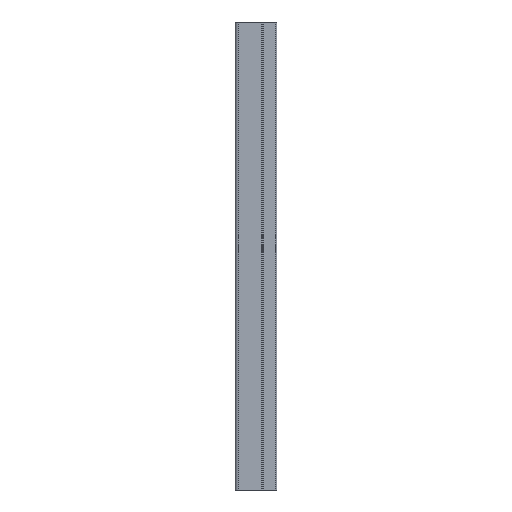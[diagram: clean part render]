
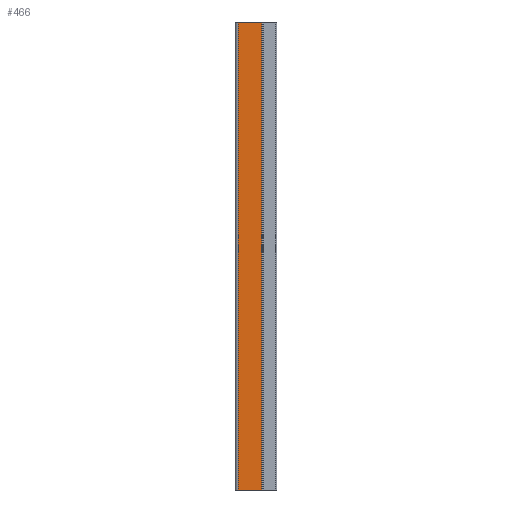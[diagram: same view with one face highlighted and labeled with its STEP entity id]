
A CAD part, left-side view. The second image highlights one B-rep face of the part: STEP entity #466.
In plain terms, the highlighted planar face has unit normal (-1, 0, 0).
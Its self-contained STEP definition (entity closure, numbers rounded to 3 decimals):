
#11 = DIRECTION ( 'NONE',  ( 0., 0., -1. ) ) ;
#126 = VERTEX_POINT ( 'NONE', #621 ) ;
#201 = DIRECTION ( 'NONE',  ( 0., -1., 0. ) ) ;
#250 = VECTOR ( 'NONE', #11, 1000. ) ;
#320 = EDGE_LOOP ( 'NONE', ( #517, #2102, #337, #399 ) ) ;
#337 = ORIENTED_EDGE ( 'NONE', *, *, #2958, .F. ) ;
#399 = ORIENTED_EDGE ( 'NONE', *, *, #1310, .T. ) ;
#466 = ADVANCED_FACE ( 'NONE', ( #1772 ), #2859, .T. ) ;
#517 = ORIENTED_EDGE ( 'NONE', *, *, #2644, .T. ) ;
#621 = CARTESIAN_POINT ( 'NONE',  ( -45., 5.17, -500. ) ) ;
#630 = CARTESIAN_POINT ( 'NONE',  ( -45., 5.17, 0. ) ) ;
#669 = CARTESIAN_POINT ( 'NONE',  ( -45., 30.5, 0. ) ) ;
#838 = CARTESIAN_POINT ( 'NONE',  ( -45., 30.5, -500. ) ) ;
#1027 = DIRECTION ( 'NONE',  ( -1., 0., 0. ) ) ;
#1048 = VERTEX_POINT ( 'NONE', #669 ) ;
#1072 = AXIS2_PLACEMENT_3D ( 'NONE', #2413, #1027, #2192 ) ;
#1098 = LINE ( 'NONE', #1126, #2685 ) ;
#1126 = CARTESIAN_POINT ( 'NONE',  ( -45., -10.5, 0. ) ) ;
#1229 = VECTOR ( 'NONE', #201, 1000. ) ;
#1310 = EDGE_CURVE ( 'NONE', #1048, #1959, #2912, .T. ) ;
#1493 = VERTEX_POINT ( 'NONE', #630 ) ;
#1576 = EDGE_CURVE ( 'NONE', #1493, #126, #3002, .T. ) ;
#1772 = FACE_OUTER_BOUND ( 'NONE', #320, .T. ) ;
#1875 = LINE ( 'NONE', #2493, #1229 ) ;
#1936 = DIRECTION ( 'NONE',  ( 0., 0., -1. ) ) ;
#1959 = VERTEX_POINT ( 'NONE', #2120 ) ;
#2102 = ORIENTED_EDGE ( 'NONE', *, *, #1576, .F. ) ;
#2120 = CARTESIAN_POINT ( 'NONE',  ( -45., 30.5, -500. ) ) ;
#2192 = DIRECTION ( 'NONE',  ( 0., -1., 0. ) ) ;
#2413 = CARTESIAN_POINT ( 'NONE',  ( -45., -10.5, -500. ) ) ;
#2493 = CARTESIAN_POINT ( 'NONE',  ( -45., -10.5, -500. ) ) ;
#2623 = VECTOR ( 'NONE', #1936, 1000. ) ;
#2644 = EDGE_CURVE ( 'NONE', #1959, #126, #1875, .T. ) ;
#2685 = VECTOR ( 'NONE', #2977, 1000. ) ;
#2759 = CARTESIAN_POINT ( 'NONE',  ( -45., 5.17, 0. ) ) ;
#2859 = PLANE ( 'NONE',  #1072 ) ;
#2912 = LINE ( 'NONE', #838, #2623 ) ;
#2958 = EDGE_CURVE ( 'NONE', #1048, #1493, #1098, .T. ) ;
#2977 = DIRECTION ( 'NONE',  ( 0., -1., 0. ) ) ;
#3002 = LINE ( 'NONE', #2759, #250 ) ;
